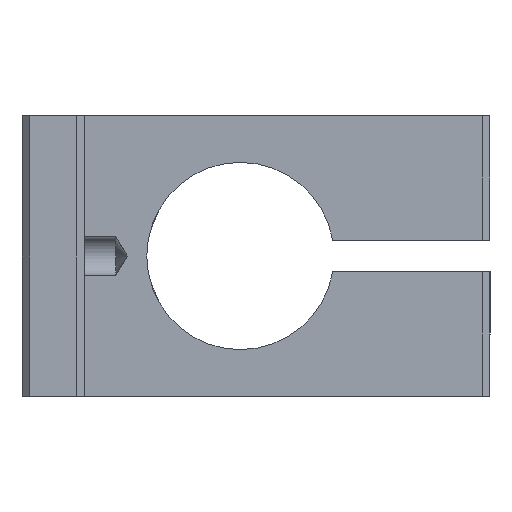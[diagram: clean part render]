
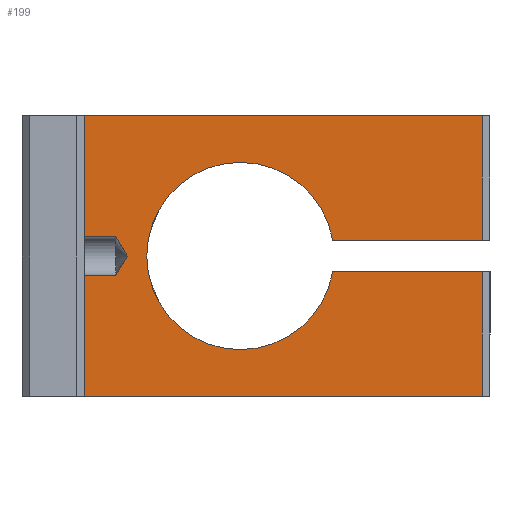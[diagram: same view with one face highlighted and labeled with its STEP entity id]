
A CAD part, left-side view. The second image highlights one B-rep face of the part: STEP entity #199.
In plain terms, the highlighted planar face has unit normal (-1, 0, 0).
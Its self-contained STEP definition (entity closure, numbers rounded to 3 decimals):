
#12 = LINE ( 'NONE', #737, #417 ) ;
#15 = DIRECTION ( 'NONE',  ( 1., 0., 0. ) ) ;
#18 = DIRECTION ( 'NONE',  ( 1., 0., 0. ) ) ;
#22 = PLANE ( 'NONE',  #365 ) ;
#27 = AXIS2_PLACEMENT_3D ( 'NONE', #940, #15, #845 ) ;
#39 = CARTESIAN_POINT ( 'NONE',  ( 10., -29.5, -9. ) ) ;
#44 = ORIENTED_EDGE ( 'NONE', *, *, #857, .T. ) ;
#54 = LINE ( 'NONE', #147, #260 ) ;
#70 = ORIENTED_EDGE ( 'NONE', *, *, #690, .T. ) ;
#79 = FACE_OUTER_BOUND ( 'NONE', #581, .T. ) ;
#87 = CIRCLE ( 'NONE', #27, 6. ) ;
#109 = EDGE_CURVE ( 'NONE', #927, #833, #1000, .T. ) ;
#119 = CARTESIAN_POINT ( 'NONE',  ( 10., -6.751, 0. ) ) ;
#121 = CARTESIAN_POINT ( 'NONE',  ( 10., -6., 1.25 ) ) ;
#134 = VERTEX_POINT ( 'NONE', #353 ) ;
#142 = VECTOR ( 'NONE', #962, 1000. ) ;
#147 = CARTESIAN_POINT ( 'NONE',  ( 10., -29.5, -1. ) ) ;
#178 = VERTEX_POINT ( 'NONE', #1036 ) ;
#188 = VECTOR ( 'NONE', #1044, 1000. ) ;
#195 = LINE ( 'NONE', #783, #523 ) ;
#199 = ADVANCED_FACE ( 'NONE', ( #79 ), #22, .F. ) ;
#219 = VERTEX_POINT ( 'NONE', #39 ) ;
#222 = VERTEX_POINT ( 'NONE', #121 ) ;
#239 = CARTESIAN_POINT ( 'NONE',  ( 10., -4., -9. ) ) ;
#244 = ORIENTED_EDGE ( 'NONE', *, *, #499, .F. ) ;
#260 = VECTOR ( 'NONE', #328, 1000. ) ;
#269 = CARTESIAN_POINT ( 'NONE',  ( 10., -29.5, 9. ) ) ;
#282 = CARTESIAN_POINT ( 'NONE',  ( 10., -4., 9. ) ) ;
#307 = VECTOR ( 'NONE', #538, 1000. ) ;
#326 = VERTEX_POINT ( 'NONE', #282 ) ;
#327 = VERTEX_POINT ( 'NONE', #1059 ) ;
#328 = DIRECTION ( 'NONE',  ( 0., 0., 1. ) ) ;
#333 = VERTEX_POINT ( 'NONE', #967 ) ;
#348 = CARTESIAN_POINT ( 'NONE',  ( 10., -19.916, 1. ) ) ;
#353 = CARTESIAN_POINT ( 'NONE',  ( 10., -19.916, -1. ) ) ;
#355 = DIRECTION ( 'NONE',  ( 0., 0., 1. ) ) ;
#365 = AXIS2_PLACEMENT_3D ( 'NONE', #687, #18, #421 ) ;
#382 = ORIENTED_EDGE ( 'NONE', *, *, #912, .F. ) ;
#406 = VECTOR ( 'NONE', #492, 1000. ) ;
#407 = CARTESIAN_POINT ( 'NONE',  ( 10., -4., -9. ) ) ;
#414 = ORIENTED_EDGE ( 'NONE', *, *, #546, .F. ) ;
#417 = VECTOR ( 'NONE', #478, 1000. ) ;
#421 = DIRECTION ( 'NONE',  ( 0., 0., -1. ) ) ;
#432 = DIRECTION ( 'NONE',  ( 0., 1., 0. ) ) ;
#434 = LINE ( 'NONE', #848, #1097 ) ;
#478 = DIRECTION ( 'NONE',  ( 0., -1., 0. ) ) ;
#492 = DIRECTION ( 'NONE',  ( 0., 1., 0. ) ) ;
#499 = EDGE_CURVE ( 'NONE', #326, #1038, #12, .T. ) ;
#512 = ORIENTED_EDGE ( 'NONE', *, *, #520, .T. ) ;
#520 = EDGE_CURVE ( 'NONE', #219, #797, #54, .T. ) ;
#521 = VECTOR ( 'NONE', #819, 1000. ) ;
#523 = VECTOR ( 'NONE', #355, 1000. ) ;
#530 = LINE ( 'NONE', #1054, #307 ) ;
#538 = DIRECTION ( 'NONE',  ( 0., -1., 0. ) ) ;
#546 = EDGE_CURVE ( 'NONE', #219, #699, #746, .T. ) ;
#581 = EDGE_LOOP ( 'NONE', ( #414, #512, #70, #675, #725, #858, #244, #1079, #44, #894, #752, #618, #382 ) ) ;
#589 = LINE ( 'NONE', #119, #142 ) ;
#599 = DIRECTION ( 'NONE',  ( 0., 0., 1. ) ) ;
#605 = VECTOR ( 'NONE', #801, 1000. ) ;
#618 = ORIENTED_EDGE ( 'NONE', *, *, #109, .T. ) ;
#625 = CARTESIAN_POINT ( 'NONE',  ( 10., 0., 1.25 ) ) ;
#629 = LINE ( 'NONE', #1058, #605 ) ;
#630 = EDGE_CURVE ( 'NONE', #178, #1038, #434, .T. ) ;
#671 = VERTEX_POINT ( 'NONE', #348 ) ;
#675 = ORIENTED_EDGE ( 'NONE', *, *, #918, .T. ) ;
#687 = CARTESIAN_POINT ( 'NONE',  ( 10., -30., 9. ) ) ;
#690 = EDGE_CURVE ( 'NONE', #797, #134, #1019, .T. ) ;
#699 = VERTEX_POINT ( 'NONE', #239 ) ;
#722 = CARTESIAN_POINT ( 'NONE',  ( 10., -29.5, -1. ) ) ;
#725 = ORIENTED_EDGE ( 'NONE', *, *, #1093, .T. ) ;
#737 = CARTESIAN_POINT ( 'NONE',  ( 10., -4., 9. ) ) ;
#746 = LINE ( 'NONE', #407, #521 ) ;
#752 = ORIENTED_EDGE ( 'NONE', *, *, #1034, .T. ) ;
#782 = CARTESIAN_POINT ( 'NONE',  ( 10., -6., -1.25 ) ) ;
#783 = CARTESIAN_POINT ( 'NONE',  ( 10., -4., 9. ) ) ;
#784 = CARTESIAN_POINT ( 'NONE',  ( 10., -6.751, 0. ) ) ;
#797 = VERTEX_POINT ( 'NONE', #722 ) ;
#801 = DIRECTION ( 'NONE',  ( 0., 0., 1. ) ) ;
#819 = DIRECTION ( 'NONE',  ( 0., 1., 0. ) ) ;
#823 = DIRECTION ( 'NONE',  ( 0., -1., 0. ) ) ;
#833 = VERTEX_POINT ( 'NONE', #978 ) ;
#838 = EDGE_CURVE ( 'NONE', #333, #326, #629, .T. ) ;
#845 = DIRECTION ( 'NONE',  ( 0., 0., -1. ) ) ;
#848 = CARTESIAN_POINT ( 'NONE',  ( 10., -29.5, 9. ) ) ;
#857 = EDGE_CURVE ( 'NONE', #333, #222, #1061, .T. ) ;
#858 = ORIENTED_EDGE ( 'NONE', *, *, #630, .T. ) ;
#894 = ORIENTED_EDGE ( 'NONE', *, *, #1039, .T. ) ;
#912 = EDGE_CURVE ( 'NONE', #699, #833, #195, .T. ) ;
#918 = EDGE_CURVE ( 'NONE', #134, #671, #87, .T. ) ;
#919 = CARTESIAN_POINT ( 'NONE',  ( 10., -30., -1. ) ) ;
#927 = VERTEX_POINT ( 'NONE', #782 ) ;
#940 = CARTESIAN_POINT ( 'NONE',  ( 10., -14., 0. ) ) ;
#962 = DIRECTION ( 'NONE',  ( 0., -0.515, -0.857 ) ) ;
#967 = CARTESIAN_POINT ( 'NONE',  ( 10., -4., 1.25 ) ) ;
#978 = CARTESIAN_POINT ( 'NONE',  ( 10., -4., -1.25 ) ) ;
#1000 = LINE ( 'NONE', #1040, #1027 ) ;
#1019 = LINE ( 'NONE', #919, #406 ) ;
#1027 = VECTOR ( 'NONE', #432, 1000. ) ;
#1034 = EDGE_CURVE ( 'NONE', #327, #927, #1074, .T. ) ;
#1036 = CARTESIAN_POINT ( 'NONE',  ( 10., -29.5, 1. ) ) ;
#1037 = VECTOR ( 'NONE', #823, 1000. ) ;
#1038 = VERTEX_POINT ( 'NONE', #269 ) ;
#1039 = EDGE_CURVE ( 'NONE', #222, #327, #589, .T. ) ;
#1040 = CARTESIAN_POINT ( 'NONE',  ( 10., 0., -1.25 ) ) ;
#1044 = DIRECTION ( 'NONE',  ( 0., 0.515, -0.857 ) ) ;
#1054 = CARTESIAN_POINT ( 'NONE',  ( 10., -30., 1. ) ) ;
#1058 = CARTESIAN_POINT ( 'NONE',  ( 10., -4., 9. ) ) ;
#1059 = CARTESIAN_POINT ( 'NONE',  ( 10., -6.751, 0. ) ) ;
#1061 = LINE ( 'NONE', #625, #1037 ) ;
#1074 = LINE ( 'NONE', #784, #188 ) ;
#1079 = ORIENTED_EDGE ( 'NONE', *, *, #838, .F. ) ;
#1093 = EDGE_CURVE ( 'NONE', #671, #178, #530, .T. ) ;
#1097 = VECTOR ( 'NONE', #599, 1000. ) ;
